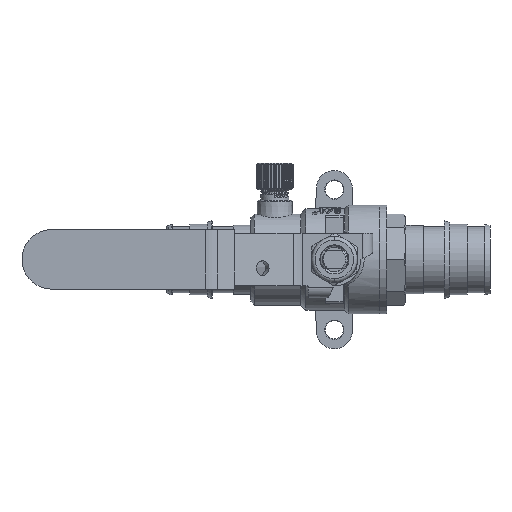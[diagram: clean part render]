
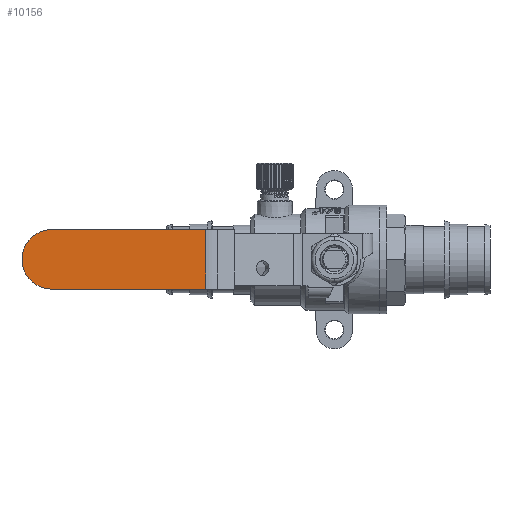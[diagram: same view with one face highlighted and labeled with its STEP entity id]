
A CAD part, top view. The second image highlights one B-rep face of the part: STEP entity #10156.
In plain terms, the highlighted planar face has unit normal (0, 0, 1).
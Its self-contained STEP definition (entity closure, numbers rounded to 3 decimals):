
#9640 = PLANE('',#9641);
#9641 = AXIS2_PLACEMENT_3D('',#9642,#9643,#9644);
#9642 = CARTESIAN_POINT('',(-36.668,-8.5,
    41.054));
#9643 = DIRECTION('',(0.,1.,0.));
#9644 = DIRECTION('',(0.,0.,-1.));
#9669 = CYLINDRICAL_SURFACE('',#9670,8.5);
#9670 = AXIS2_PLACEMENT_3D('',#9671,#9672,#9673);
#9671 = CARTESIAN_POINT('',(-80.604,0.,
    44.454));
#9672 = DIRECTION('',(0.,0.,-1.));
#9673 = DIRECTION('',(1.,0.,0.));
#9698 = CYLINDRICAL_SURFACE('',#9699,8.5);
#9699 = AXIS2_PLACEMENT_3D('',#9700,#9701,#9702);
#9700 = CARTESIAN_POINT('',(-80.604,0.,
    41.054));
#9701 = DIRECTION('',(0.,0.,1.));
#9702 = DIRECTION('',(-1.,0.,0.));
#9726 = PLANE('',#9727);
#9727 = AXIS2_PLACEMENT_3D('',#9728,#9729,#9730);
#9728 = CARTESIAN_POINT('',(-36.668,8.5,
    41.054));
#9729 = DIRECTION('',(0.,1.,0.));
#9730 = DIRECTION('',(0.,0.,-1.));
#10046 = CYLINDRICAL_SURFACE('',#10047,6.6);
#10047 = AXIS2_PLACEMENT_3D('',#10048,#10049,#10050);
#10048 = CARTESIAN_POINT('',(-36.668,-8.5,
    41.054));
#10049 = DIRECTION('',(0.,1.,0.));
#10050 = DIRECTION('',(0.,0.,-1.));
#10084 = VERTEX_POINT('',#10085);
#10085 = CARTESIAN_POINT('',(-36.668,8.5,
    47.654));
#10107 = EDGE_CURVE('',#10108,#10084,#10110,.T.);
#10108 = VERTEX_POINT('',#10109);
#10109 = CARTESIAN_POINT('',(-36.668,-8.5,
    47.654));
#10110 = SURFACE_CURVE('',#10111,(#10115,#10122),.PCURVE_S1.);
#10111 = LINE('',#10112,#10113);
#10112 = CARTESIAN_POINT('',(-36.668,-8.5,
    47.654));
#10113 = VECTOR('',#10114,1.);
#10114 = DIRECTION('',(0.,1.,0.));
#10115 = PCURVE('',#10046,#10116);
#10116 = DEFINITIONAL_REPRESENTATION('',(#10117),#10121);
#10117 = LINE('',#10118,#10119);
#10118 = CARTESIAN_POINT('',(3.142,0.));
#10119 = VECTOR('',#10120,1.);
#10120 = DIRECTION('',(0.,1.));
#10121 = ( GEOMETRIC_REPRESENTATION_CONTEXT(2) 
PARAMETRIC_REPRESENTATION_CONTEXT() REPRESENTATION_CONTEXT('2D SPACE',''
  ) );
#10122 = PCURVE('',#10123,#10128);
#10123 = PLANE('',#10124);
#10124 = AXIS2_PLACEMENT_3D('',#10125,#10126,#10127);
#10125 = CARTESIAN_POINT('',(-89.104,-8.5,
    47.654));
#10126 = DIRECTION('',(0.,0.,1.));
#10127 = DIRECTION('',(-1.,0.,0.));
#10128 = DEFINITIONAL_REPRESENTATION('',(#10129),#10133);
#10129 = LINE('',#10130,#10131);
#10130 = CARTESIAN_POINT('',(-52.436,-0.));
#10131 = VECTOR('',#10132,1.);
#10132 = DIRECTION('',(0.,-1.));
#10133 = ( GEOMETRIC_REPRESENTATION_CONTEXT(2) 
PARAMETRIC_REPRESENTATION_CONTEXT() REPRESENTATION_CONTEXT('2D SPACE',''
  ) );
#10156 = ADVANCED_FACE('',(#10157),#10123,.T.);
#10157 = FACE_BOUND('',#10158,.T.);
#10158 = EDGE_LOOP('',(#10159,#10185,#10209,#10230,#10231));
#10159 = ORIENTED_EDGE('',*,*,#10160,.T.);
#10160 = EDGE_CURVE('',#10161,#10163,#10165,.T.);
#10161 = VERTEX_POINT('',#10162);
#10162 = CARTESIAN_POINT('',(-80.604,8.5,
    47.654));
#10163 = VERTEX_POINT('',#10164);
#10164 = CARTESIAN_POINT('',(-89.104,0.,
    47.654));
#10165 = SURFACE_CURVE('',#10166,(#10171,#10178),.PCURVE_S1.);
#10166 = CIRCLE('',#10167,8.5);
#10167 = AXIS2_PLACEMENT_3D('',#10168,#10169,#10170);
#10168 = CARTESIAN_POINT('',(-80.604,0.,
    47.654));
#10169 = DIRECTION('',(0.,0.,1.));
#10170 = DIRECTION('',(-1.,0.,0.));
#10171 = PCURVE('',#10123,#10172);
#10172 = DEFINITIONAL_REPRESENTATION('',(#10173),#10177);
#10173 = CIRCLE('',#10174,8.5);
#10174 = AXIS2_PLACEMENT_2D('',#10175,#10176);
#10175 = CARTESIAN_POINT('',(-8.5,-8.5));
#10176 = DIRECTION('',(1.,0.));
#10177 = ( GEOMETRIC_REPRESENTATION_CONTEXT(2) 
PARAMETRIC_REPRESENTATION_CONTEXT() REPRESENTATION_CONTEXT('2D SPACE',''
  ) );
#10178 = PCURVE('',#9698,#10179);
#10179 = DEFINITIONAL_REPRESENTATION('',(#10180),#10184);
#10180 = LINE('',#10181,#10182);
#10181 = CARTESIAN_POINT('',(0.,6.6));
#10182 = VECTOR('',#10183,1.);
#10183 = DIRECTION('',(1.,0.));
#10184 = ( GEOMETRIC_REPRESENTATION_CONTEXT(2) 
PARAMETRIC_REPRESENTATION_CONTEXT() REPRESENTATION_CONTEXT('2D SPACE',''
  ) );
#10185 = ORIENTED_EDGE('',*,*,#10186,.T.);
#10186 = EDGE_CURVE('',#10163,#10187,#10189,.T.);
#10187 = VERTEX_POINT('',#10188);
#10188 = CARTESIAN_POINT('',(-80.604,-8.5,
    47.654));
#10189 = SURFACE_CURVE('',#10190,(#10195,#10202),.PCURVE_S1.);
#10190 = CIRCLE('',#10191,8.5);
#10191 = AXIS2_PLACEMENT_3D('',#10192,#10193,#10194);
#10192 = CARTESIAN_POINT('',(-80.604,0.,
    47.654));
#10193 = DIRECTION('',(0.,0.,1.));
#10194 = DIRECTION('',(-1.,0.,0.));
#10195 = PCURVE('',#10123,#10196);
#10196 = DEFINITIONAL_REPRESENTATION('',(#10197),#10201);
#10197 = CIRCLE('',#10198,8.5);
#10198 = AXIS2_PLACEMENT_2D('',#10199,#10200);
#10199 = CARTESIAN_POINT('',(-8.5,-8.5));
#10200 = DIRECTION('',(1.,0.));
#10201 = ( GEOMETRIC_REPRESENTATION_CONTEXT(2) 
PARAMETRIC_REPRESENTATION_CONTEXT() REPRESENTATION_CONTEXT('2D SPACE',''
  ) );
#10202 = PCURVE('',#9669,#10203);
#10203 = DEFINITIONAL_REPRESENTATION('',(#10204),#10208);
#10204 = LINE('',#10205,#10206);
#10205 = CARTESIAN_POINT('',(3.142,-3.2));
#10206 = VECTOR('',#10207,1.);
#10207 = DIRECTION('',(-1.,0.));
#10208 = ( GEOMETRIC_REPRESENTATION_CONTEXT(2) 
PARAMETRIC_REPRESENTATION_CONTEXT() REPRESENTATION_CONTEXT('2D SPACE',''
  ) );
#10209 = ORIENTED_EDGE('',*,*,#10210,.T.);
#10210 = EDGE_CURVE('',#10187,#10108,#10211,.T.);
#10211 = SURFACE_CURVE('',#10212,(#10216,#10223),.PCURVE_S1.);
#10212 = LINE('',#10213,#10214);
#10213 = CARTESIAN_POINT('',(-89.104,-8.5,
    47.654));
#10214 = VECTOR('',#10215,1.);
#10215 = DIRECTION('',(1.,0.,0.));
#10216 = PCURVE('',#10123,#10217);
#10217 = DEFINITIONAL_REPRESENTATION('',(#10218),#10222);
#10218 = LINE('',#10219,#10220);
#10219 = CARTESIAN_POINT('',(0.,-0.));
#10220 = VECTOR('',#10221,1.);
#10221 = DIRECTION('',(-1.,-0.));
#10222 = ( GEOMETRIC_REPRESENTATION_CONTEXT(2) 
PARAMETRIC_REPRESENTATION_CONTEXT() REPRESENTATION_CONTEXT('2D SPACE',''
  ) );
#10223 = PCURVE('',#9640,#10224);
#10224 = DEFINITIONAL_REPRESENTATION('',(#10225),#10229);
#10225 = LINE('',#10226,#10227);
#10226 = CARTESIAN_POINT('',(-6.6,52.436));
#10227 = VECTOR('',#10228,1.);
#10228 = DIRECTION('',(0.,-1.));
#10229 = ( GEOMETRIC_REPRESENTATION_CONTEXT(2) 
PARAMETRIC_REPRESENTATION_CONTEXT() REPRESENTATION_CONTEXT('2D SPACE',''
  ) );
#10230 = ORIENTED_EDGE('',*,*,#10107,.T.);
#10231 = ORIENTED_EDGE('',*,*,#10232,.F.);
#10232 = EDGE_CURVE('',#10161,#10084,#10233,.T.);
#10233 = SURFACE_CURVE('',#10234,(#10238,#10245),.PCURVE_S1.);
#10234 = LINE('',#10235,#10236);
#10235 = CARTESIAN_POINT('',(-89.104,8.5,
    47.654));
#10236 = VECTOR('',#10237,1.);
#10237 = DIRECTION('',(1.,0.,0.));
#10238 = PCURVE('',#10123,#10239);
#10239 = DEFINITIONAL_REPRESENTATION('',(#10240),#10244);
#10240 = LINE('',#10241,#10242);
#10241 = CARTESIAN_POINT('',(0.,-17.));
#10242 = VECTOR('',#10243,1.);
#10243 = DIRECTION('',(-1.,-0.));
#10244 = ( GEOMETRIC_REPRESENTATION_CONTEXT(2) 
PARAMETRIC_REPRESENTATION_CONTEXT() REPRESENTATION_CONTEXT('2D SPACE',''
  ) );
#10245 = PCURVE('',#9726,#10246);
#10246 = DEFINITIONAL_REPRESENTATION('',(#10247),#10251);
#10247 = LINE('',#10248,#10249);
#10248 = CARTESIAN_POINT('',(-6.6,52.436));
#10249 = VECTOR('',#10250,1.);
#10250 = DIRECTION('',(0.,-1.));
#10251 = ( GEOMETRIC_REPRESENTATION_CONTEXT(2) 
PARAMETRIC_REPRESENTATION_CONTEXT() REPRESENTATION_CONTEXT('2D SPACE',''
  ) );
